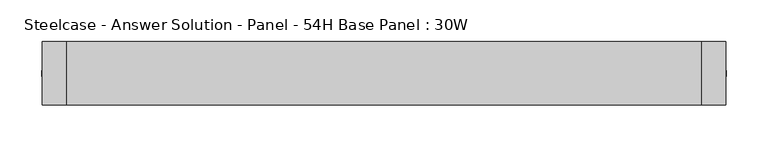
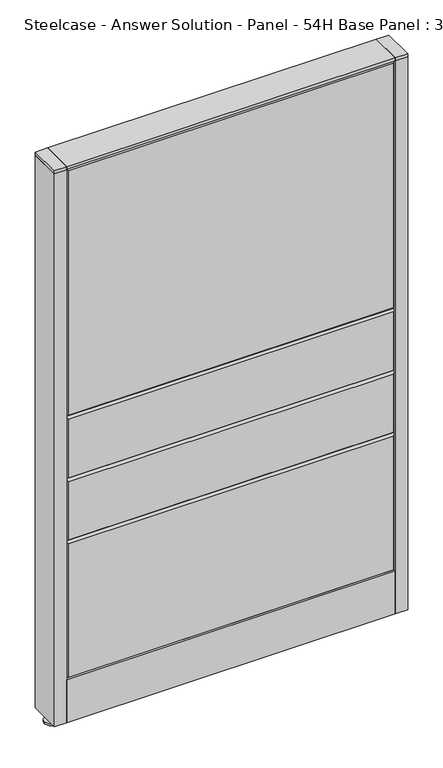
"""IFC4 building model written with IfcOpenShell, lengths in millimetres: furniture geometry, Steelcase - Answer Solution - Panel - 54H Base Panel : 30W."""

from ifc_helpers import new_model, si_unit, point, frame, frame_2d, origin, place, context, project, spatial, polyline, circle_curve, trimmed, segment, composite_curve, outline, extrude, faceted_brep, source, transform, mapped, element, save


def steelcase_answer_solution_panel_54h_base_panel_30w_d5c08348(model_context):
    return source(origin(), model_context, "Body", "SolidModel", [
        extrude(outline(composite_curve([segment(trimmed(circle_curve(frame_2d((395.224, 0.0320214)), 5.08), [point((400.304, 0.0320214))], [point((390.144, 0.0320214))], False, "CARTESIAN"), True, "CONTINUOUS"), segment(trimmed(circle_curve(frame_2d((395.224, 0.0320214)), 5.08), [point((390.144, 0.0320214))], [point((400.304, 0.0320214))], False, "CARTESIAN"), True, "CONTINUOUS")], self_intersect=False)), frame((0.0, 0.0, 5.0799671), z_axis=(0.0, 0.0, 1.0), x_axis=(1.0, 0.0, 0.0)), (0.0, 0.0, 1.0), 10.414),
        extrude(outline(composite_curve([segment(trimmed(circle_curve(frame_2d((395.224, 0.0320214)), 15.24), [point((410.464, 0.0320214))], [point((379.984, 0.0320214))], False, "CARTESIAN"), True, "CONTINUOUS"), segment(trimmed(circle_curve(frame_2d((395.224, 0.0320214)), 15.24), [point((379.984, 0.0320214))], [point((410.464, 0.0320214))], False, "CARTESIAN"), True, "CONTINUOUS")], self_intersect=False)), frame((0.0, 0.0, -3.29e-05), z_axis=(0.0, 0.0, 1.0), x_axis=(1.0, 0.0, 0.0)), (0.0, 0.0, 1.0), 5.08),
        extrude(outline(polyline([(409.575, 38.1320408), (409.575, -38.0679592), (381.0, -38.0679592), (381.0, 38.1320408), (409.575, 38.1320408)])), frame((0.0, 0.0, 1370.6348), z_axis=(0.0, 0.0, 1.0), x_axis=(1.0, 0.0, 0.0)), (0.0, 0.0, 1.0), 7.3151671),
        extrude(outline(polyline([(409.575, 38.1320408), (409.575, -38.0679592), (381.0, -38.0679592), (381.0, 38.1320408), (409.575, 38.1320408)])), frame((0.0, 0.0, 15.4939671), z_axis=(0.0, 0.0, 1.0), x_axis=(1.0, 0.0, 0.0)), (0.0, 0.0, 1.0), 1355.1408329),
        extrude(outline(composite_curve([segment(trimmed(circle_curve(frame_2d((-395.224, 0.0320214)), 5.08), [point((-400.304, 0.0320214))], [point((-390.144, 0.0320214))], False, "CARTESIAN"), True, "CONTINUOUS"), segment(trimmed(circle_curve(frame_2d((-395.224, 0.0320214)), 5.08), [point((-390.144, 0.0320214))], [point((-400.304, 0.0320214))], False, "CARTESIAN"), True, "CONTINUOUS")], self_intersect=False)), frame((0.0, 0.0, 5.0799671), z_axis=(0.0, 0.0, 1.0), x_axis=(1.0, 0.0, 0.0)), (0.0, 0.0, 1.0), 10.414),
        extrude(outline(composite_curve([segment(trimmed(circle_curve(frame_2d((-395.224, 0.0320214)), 15.24), [point((-410.464, 0.0320214))], [point((-379.984, 0.0320214))], False, "CARTESIAN"), True, "CONTINUOUS"), segment(trimmed(circle_curve(frame_2d((-395.224, 0.0320214)), 15.24), [point((-379.984, 0.0320214))], [point((-410.464, 0.0320214))], False, "CARTESIAN"), True, "CONTINUOUS")], self_intersect=False)), frame((0.0, 0.0, -3.29e-05), z_axis=(0.0, 0.0, 1.0), x_axis=(1.0, 0.0, 0.0)), (0.0, 0.0, 1.0), 5.08),
        extrude(outline(polyline([(-409.575, 38.1320408), (-381.0, 38.1320408), (-381.0, -38.0679592), (-409.575, -38.0679592), (-409.575, 38.1320408)])), frame((0.0, 0.0, 1370.6348), z_axis=(0.0, 0.0, 1.0), x_axis=(1.0, 0.0, 0.0)), (0.0, 0.0, 1.0), 7.3151671),
        extrude(outline(polyline([(-409.575, 38.1320408), (-381.0, 38.1320408), (-381.0, -38.0679592), (-409.575, -38.0679592), (-409.575, 38.1320408)])), frame((0.0, 0.0, 15.4939671), z_axis=(0.0, 0.0, 1.0), x_axis=(1.0, 0.0, 0.0)), (0.0, 0.0, 1.0), 1355.1408329),
        faceted_brep([(-376.174, 38.1635011, 1366.774), (376.174, 38.1635011, 1366.774), (376.174, 38.1635011, 766.826), (-376.174, 38.1635011, 766.826), (-381.0, 33.3375011, 1371.6), (-381.0, 33.3375011, 762.0), (381.0, 33.3375011, 762.0), (381.0, 33.3375011, 1371.6)], [[[0, 1, 2, 3]], [[4, 5, 6, 7]], [[4, 7, 1, 0]], [[7, 6, 2, 1]], [[6, 5, 3, 2]], [[5, 4, 0, 3]]]),
        faceted_brep([(-376.174, 38.1635011, 757.174), (376.174, 38.1635011, 757.174), (376.174, 38.1635011, 614.426), (-376.174, 38.1635011, 614.426), (-381.0, 33.3375011, 762.0), (-381.0, 33.3375011, 609.6), (381.0, 33.3375011, 609.6), (381.0, 33.3375011, 762.0)], [[[0, 1, 2, 3]], [[4, 5, 6, 7]], [[4, 7, 1, 0]], [[7, 6, 2, 1]], [[6, 5, 3, 2]], [[5, 4, 0, 3]]]),
        faceted_brep([(-376.174, 38.1635011, 604.774), (376.174, 38.1635011, 604.774), (376.174, 38.1635011, 462.026), (-376.174, 38.1635011, 462.026), (-381.0, 33.3375011, 609.6), (-381.0, 33.3375011, 457.2), (381.0, 33.3375011, 457.2), (381.0, 33.3375011, 609.6)], [[[0, 1, 2, 3]], [[4, 5, 6, 7]], [[4, 7, 1, 0]], [[7, 6, 2, 1]], [[6, 5, 3, 2]], [[5, 4, 0, 3]]]),
        faceted_brep([(-376.174, 38.1635011, 452.374), (376.174, 38.1635011, 452.374), (376.174, 38.1635011, 125.476), (-376.174, 38.1635011, 125.476), (-381.0, 33.3375011, 457.2), (-381.0, 33.3375011, 120.65), (381.0, 33.3375011, 120.65), (381.0, 33.3375011, 457.2)], [[[0, 1, 2, 3]], [[4, 5, 6, 7]], [[4, 7, 1, 0]], [[7, 6, 2, 1]], [[6, 5, 3, 2]], [[5, 4, 0, 3]]]),
        faceted_brep([(376.174, -38.1635011, 1366.774), (-376.174, -38.1635011, 1366.774), (-376.174, -38.1635011, 766.826), (376.174, -38.1635011, 766.826), (381.0, -33.3375011, 1371.6), (381.0, -33.3375011, 762.0), (-381.0, -33.3375011, 762.0), (-381.0, -33.3375011, 1371.6)], [[[0, 1, 2, 3]], [[4, 5, 6, 7]], [[4, 7, 1, 0]], [[7, 6, 2, 1]], [[6, 5, 3, 2]], [[5, 4, 0, 3]]]),
        faceted_brep([(376.174, -38.1635011, 757.174), (-376.174, -38.1635011, 757.174), (-376.174, -38.1635011, 614.426), (376.174, -38.1635011, 614.426), (381.0, -33.3375011, 762.0), (381.0, -33.3375011, 609.6), (-381.0, -33.3375011, 609.6), (-381.0, -33.3375011, 762.0)], [[[0, 1, 2, 3]], [[4, 5, 6, 7]], [[4, 7, 1, 0]], [[7, 6, 2, 1]], [[6, 5, 3, 2]], [[5, 4, 0, 3]]]),
        faceted_brep([(376.174, -38.1635011, 604.774), (-376.174, -38.1635011, 604.774), (-376.174, -38.1635011, 462.026), (376.174, -38.1635011, 462.026), (381.0, -33.3375011, 609.6), (381.0, -33.3375011, 457.2), (-381.0, -33.3375011, 457.2), (-381.0, -33.3375011, 609.6)], [[[0, 1, 2, 3]], [[4, 5, 6, 7]], [[4, 7, 1, 0]], [[7, 6, 2, 1]], [[6, 5, 3, 2]], [[5, 4, 0, 3]]]),
        faceted_brep([(376.174, -38.1635011, 452.374), (-376.174, -38.1635011, 452.374), (-376.174, -38.1635011, 125.476), (376.174, -38.1635011, 125.476), (381.0, -33.3375011, 457.2), (381.0, -33.3375011, 120.65), (-381.0, -33.3375011, 120.65), (-381.0, -33.3375011, 457.2)], [[[0, 1, 2, 3]], [[4, 5, 6, 7]], [[4, 7, 1, 0]], [[7, 6, 2, 1]], [[6, 5, 3, 2]], [[5, 4, 0, 3]]]),
        extrude(outline(polyline([(381.0, 38.1000194), (381.0, -38.1000194), (-381.0, -38.1000194), (-381.0, 38.1000194), (381.0, 38.1000194)])), frame((0.0, 0.0, 1371.6), z_axis=(0.0, 0.0, 1.0), x_axis=(1.0, 0.0, 0.0)), (0.0, 0.0, 1.0), 6.35),
        extrude(outline(polyline([(25.4000011, 119.8575157), (25.4000011, 120.65), (38.1000194, 120.65), (38.1000194, 15.494), (37.3075215, 15.494), (37.3075215, 119.8575157), (25.4000011, 119.8575157)])), frame((-381.0, 0.0, 0.0), z_axis=(1.0, 0.0, 0.0), x_axis=(0.0, 1.0, 0.0)), (0.0, 0.0, 1.0), 762.0),
        extrude(outline(polyline([(-25.4000011, 119.8575157), (-37.3075215, 119.8575157), (-37.3075215, 15.494), (-38.1000194, 15.494), (-38.1000194, 120.65), (-25.4000011, 120.65), (-25.4000011, 119.8575157)])), frame((-381.0, 0.0, 0.0), z_axis=(1.0, 0.0, 0.0), x_axis=(0.0, 1.0, 0.0)), (0.0, 0.0, 1.0), 762.0),
    ])


if __name__ == "__main__":
    model = new_model("IFC4")
    model_context = context("Model", 3, world=origin())
    ifc_project = project(units=[si_unit("LENGTHUNIT", "METRE", prefix="MILLI")], contexts=[model_context])
    site = spatial("IfcSite", under=ifc_project)
    building = spatial("IfcBuilding", under=site)
    placement = place(None, origin())
    steelcase_answer_solution_panel_54h_base_panel_30w_shape = steelcase_answer_solution_panel_54h_base_panel_30w_d5c08348(model_context)
    element("IfcFurniture", 1, ObjectType="Steelcase - Answer Solution - Panel - 54H Base Panel : 30W", at=placement, inside=building, context=model_context, shape_type="MappedRepresentation", body=[
        mapped(steelcase_answer_solution_panel_54h_base_panel_30w_shape, transform((0.0, 0.0, 0.0), x_axis=(1.0, 0.0, 0.0), y_axis=(0.0, 1.0, 0.0), z_axis=(0.0, 0.0, 1.0))),
    ])
    save(model, "model.ifc")
